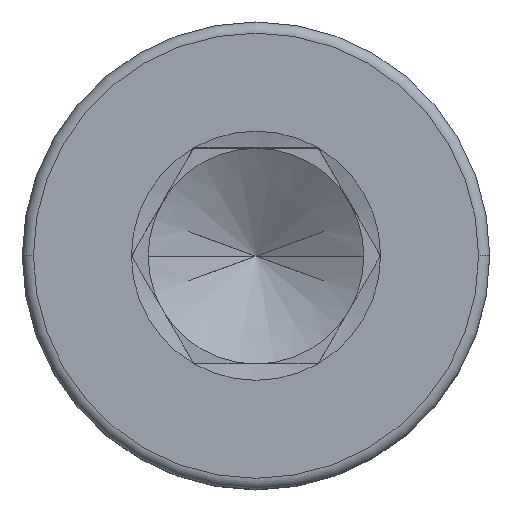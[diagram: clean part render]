
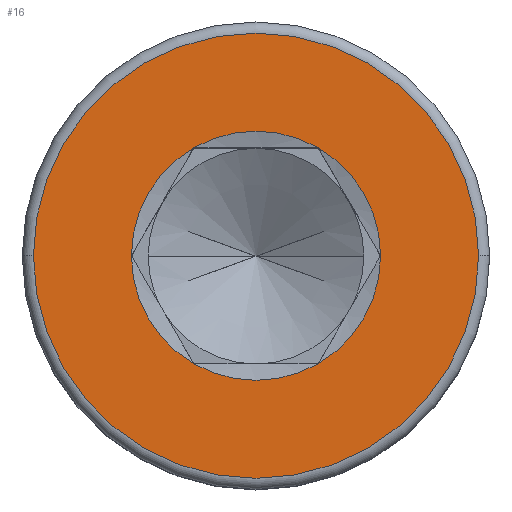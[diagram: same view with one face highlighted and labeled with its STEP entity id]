
A CAD part, top view. The second image highlights one B-rep face of the part: STEP entity #16.
In plain terms, the highlighted planar face has unit normal (0, 0, 1).
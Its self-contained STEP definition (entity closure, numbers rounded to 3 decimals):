
#16 = ADVANCED_FACE ( 'NONE', ( #860, #1671 ), #1543, .T. ) ;
#59 = CIRCLE ( 'NONE', #1070, 3.464 ) ;
#68 = DIRECTION ( 'NONE',  ( 1., 0., 0. ) ) ;
#87 = VERTEX_POINT ( 'NONE', #1536 ) ;
#102 = DIRECTION ( 'NONE',  ( 0., 0., 1. ) ) ;
#114 = CIRCLE ( 'NONE', #1367, 6.19 ) ;
#131 = DIRECTION ( 'NONE',  ( 0., 0., 1. ) ) ;
#140 = DIRECTION ( 'NONE',  ( 1., 0., 0. ) ) ;
#163 = CARTESIAN_POINT ( 'NONE',  ( 0., 0., 8. ) ) ;
#204 = CARTESIAN_POINT ( 'NONE',  ( 0., 0., 8. ) ) ;
#208 = EDGE_CURVE ( 'NONE', #376, #944, #958, .T. ) ;
#218 = EDGE_CURVE ( 'NONE', #1633, #683, #379, .T. ) ;
#238 = ORIENTED_EDGE ( 'NONE', *, *, #866, .F. ) ;
#262 = EDGE_CURVE ( 'NONE', #683, #376, #59, .T. ) ;
#270 = ORIENTED_EDGE ( 'NONE', *, *, #819, .T. ) ;
#331 = EDGE_CURVE ( 'NONE', #1125, #1689, #114, .T. ) ;
#334 = DIRECTION ( 'NONE',  ( 1., 0., 0. ) ) ;
#336 = CARTESIAN_POINT ( 'NONE',  ( 0., 0., 8. ) ) ;
#341 = AXIS2_PLACEMENT_3D ( 'NONE', #687, #1110, #1488 ) ;
#374 = CARTESIAN_POINT ( 'NONE',  ( 0., 0., 8. ) ) ;
#376 = VERTEX_POINT ( 'NONE', #1436 ) ;
#379 = CIRCLE ( 'NONE', #1013, 3.464 ) ;
#414 = VERTEX_POINT ( 'NONE', #1240 ) ;
#465 = AXIS2_PLACEMENT_3D ( 'NONE', #204, #1699, #1424 ) ;
#485 = EDGE_LOOP ( 'NONE', ( #520, #270 ) ) ;
#520 = ORIENTED_EDGE ( 'NONE', *, *, #331, .T. ) ;
#594 = DIRECTION ( 'NONE',  ( 1., 0., 0. ) ) ;
#630 = AXIS2_PLACEMENT_3D ( 'NONE', #1726, #874, #334 ) ;
#639 = EDGE_LOOP ( 'NONE', ( #1466, #1459, #1263, #1707, #1605, #238 ) ) ;
#683 = VERTEX_POINT ( 'NONE', #1313 ) ;
#687 = CARTESIAN_POINT ( 'NONE',  ( 0., 0., 8. ) ) ;
#707 = CARTESIAN_POINT ( 'NONE',  ( 0., 0., 8. ) ) ;
#817 = CARTESIAN_POINT ( 'NONE',  ( -6.19, 0., 8. ) ) ;
#819 = EDGE_CURVE ( 'NONE', #1689, #1125, #1538, .T. ) ;
#849 = DIRECTION ( 'NONE',  ( 1., 0., 0. ) ) ;
#860 = FACE_OUTER_BOUND ( 'NONE', #485, .T. ) ;
#864 = AXIS2_PLACEMENT_3D ( 'NONE', #374, #102, #140 ) ;
#866 = EDGE_CURVE ( 'NONE', #414, #87, #1422, .T. ) ;
#867 = EDGE_CURVE ( 'NONE', #944, #414, #1184, .T. ) ;
#870 = DIRECTION ( 'NONE',  ( 0., 0., 1. ) ) ;
#874 = DIRECTION ( 'NONE',  ( 0., 0., 1. ) ) ;
#884 = CARTESIAN_POINT ( 'NONE',  ( 3.464, 0., 8. ) ) ;
#944 = VERTEX_POINT ( 'NONE', #884 ) ;
#958 = CIRCLE ( 'NONE', #341, 3.464 ) ;
#977 = CARTESIAN_POINT ( 'NONE',  ( 0., 0., 8. ) ) ;
#1013 = AXIS2_PLACEMENT_3D ( 'NONE', #1389, #131, #1099 ) ;
#1040 = CIRCLE ( 'NONE', #465, 3.464 ) ;
#1070 = AXIS2_PLACEMENT_3D ( 'NONE', #163, #870, #1430 ) ;
#1099 = DIRECTION ( 'NONE',  ( 1., 0., 0. ) ) ;
#1110 = DIRECTION ( 'NONE',  ( 0., 0., 1. ) ) ;
#1125 = VERTEX_POINT ( 'NONE', #1412 ) ;
#1184 = CIRCLE ( 'NONE', #864, 3.464 ) ;
#1240 = CARTESIAN_POINT ( 'NONE',  ( 1.732, 3., 8. ) ) ;
#1263 = ORIENTED_EDGE ( 'NONE', *, *, #262, .F. ) ;
#1265 = DIRECTION ( 'NONE',  ( 0., 0., 1. ) ) ;
#1313 = CARTESIAN_POINT ( 'NONE',  ( -1.732, -3., 8. ) ) ;
#1323 = DIRECTION ( 'NONE',  ( 0., 0., 1. ) ) ;
#1367 = AXIS2_PLACEMENT_3D ( 'NONE', #336, #1323, #68 ) ;
#1389 = CARTESIAN_POINT ( 'NONE',  ( 0., 0., 8. ) ) ;
#1408 = EDGE_CURVE ( 'NONE', #87, #1633, #1040, .T. ) ;
#1412 = CARTESIAN_POINT ( 'NONE',  ( 6.19, 0., 8. ) ) ;
#1417 = DIRECTION ( 'NONE',  ( 0., 0., 1. ) ) ;
#1422 = CIRCLE ( 'NONE', #630, 3.464 ) ;
#1424 = DIRECTION ( 'NONE',  ( 1., 0., 0. ) ) ;
#1430 = DIRECTION ( 'NONE',  ( 1., 0., 0. ) ) ;
#1436 = CARTESIAN_POINT ( 'NONE',  ( 1.732, -3., 8. ) ) ;
#1459 = ORIENTED_EDGE ( 'NONE', *, *, #208, .F. ) ;
#1466 = ORIENTED_EDGE ( 'NONE', *, *, #867, .F. ) ;
#1488 = DIRECTION ( 'NONE',  ( 1., 0., 0. ) ) ;
#1536 = CARTESIAN_POINT ( 'NONE',  ( -1.732, 3., 8. ) ) ;
#1538 = CIRCLE ( 'NONE', #1592, 6.19 ) ;
#1543 = PLANE ( 'NONE',  #1677 ) ;
#1592 = AXIS2_PLACEMENT_3D ( 'NONE', #977, #1417, #849 ) ;
#1605 = ORIENTED_EDGE ( 'NONE', *, *, #1408, .F. ) ;
#1611 = CARTESIAN_POINT ( 'NONE',  ( -3.464, 0., 8. ) ) ;
#1633 = VERTEX_POINT ( 'NONE', #1611 ) ;
#1671 = FACE_BOUND ( 'NONE', #639, .T. ) ;
#1677 = AXIS2_PLACEMENT_3D ( 'NONE', #707, #1265, #594 ) ;
#1689 = VERTEX_POINT ( 'NONE', #817 ) ;
#1699 = DIRECTION ( 'NONE',  ( 0., 0., 1. ) ) ;
#1707 = ORIENTED_EDGE ( 'NONE', *, *, #218, .F. ) ;
#1726 = CARTESIAN_POINT ( 'NONE',  ( 0., 0., 8. ) ) ;
